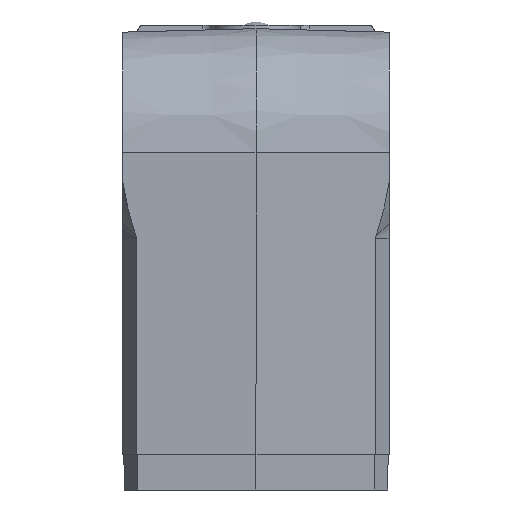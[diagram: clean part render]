
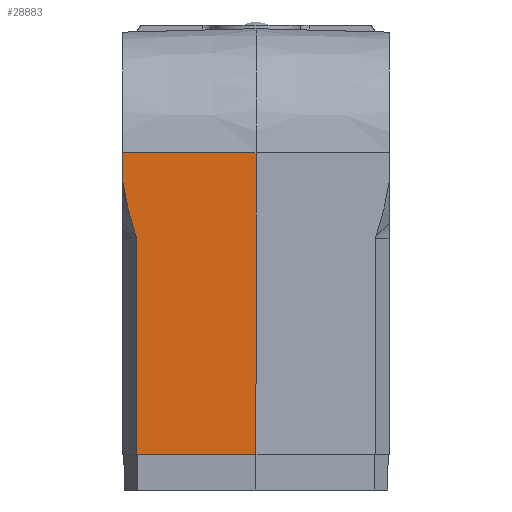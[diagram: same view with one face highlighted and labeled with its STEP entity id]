
A CAD part, left-side view. The second image highlights one B-rep face of the part: STEP entity #28883.
In plain terms, the highlighted planar face has unit normal (-1, 0.026, 0).
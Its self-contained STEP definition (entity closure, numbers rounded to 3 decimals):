
#8020=DIRECTION('',(-0.026,-1.,0.));
#8021=VECTOR('',#8020,0.051);
#8022=CARTESIAN_POINT('',(-17.824,6.736,0.));
#8023=LINE('',#8022,#8021);
#8069=DIRECTION('',(0.026,1.,0.));
#8070=VECTOR('',#8069,6.687);
#8071=CARTESIAN_POINT('',(-18.,0.,0.));
#8072=LINE('',#8071,#8070);
#8076=DIRECTION('',(0.,0.,1.));
#8077=VECTOR('',#8076,12.178);
#8078=CARTESIAN_POINT('',(-17.824,6.736,0.));
#8079=LINE('',#8078,#8077);
#8083=CARTESIAN_POINT('',(-17.824,6.736,12.178));
#8084=CARTESIAN_POINT('',(-17.824,6.736,12.186));
#8085=CARTESIAN_POINT('',(-17.824,6.736,12.202));
#8086=CARTESIAN_POINT('',(-17.824,6.739,12.226));
#8087=CARTESIAN_POINT('',(-17.823,6.744,12.25));
#8088=CARTESIAN_POINT('',(-17.823,6.75,12.274));
#8089=CARTESIAN_POINT('',(-17.823,6.755,12.291));
#8090=CARTESIAN_POINT('',(-17.823,6.758,12.3));
#8095=CARTESIAN_POINT('',(-17.823,6.758,12.3));
#8096=CARTESIAN_POINT('',(-17.822,6.787,12.387));
#8097=CARTESIAN_POINT('',(-17.821,6.845,12.564));
#8098=CARTESIAN_POINT('',(-17.818,6.933,12.848));
#8099=CARTESIAN_POINT('',(-17.816,7.017,13.131));
#8100=CARTESIAN_POINT('',(-17.814,7.093,13.401));
#8101=CARTESIAN_POINT('',(-17.813,7.158,13.647));
#8102=CARTESIAN_POINT('',(-17.811,7.216,13.879));
#8103=CARTESIAN_POINT('',(-17.81,7.27,14.107));
#8104=CARTESIAN_POINT('',(-17.808,7.322,14.339));
#8105=CARTESIAN_POINT('',(-17.807,7.373,14.588));
#8106=CARTESIAN_POINT('',(-17.806,7.421,14.845));
#8107=CARTESIAN_POINT('',(-17.805,7.464,15.104));
#8108=CARTESIAN_POINT('',(-17.804,7.489,15.271));
#8109=CARTESIAN_POINT('',(-17.804,7.5,15.354));
#8114=DIRECTION('',(-0.026,-1.,0.));
#8115=VECTOR('',#8114,7.503);
#8116=CARTESIAN_POINT('',(-17.804,7.5,17.));
#8117=LINE('',#8116,#8115);
#8121=DIRECTION('',(0.,0.,1.));
#8122=VECTOR('',#8121,17.);
#8123=CARTESIAN_POINT('',(-18.,0.,0.));
#8124=LINE('',#8123,#8122);
#8173=DIRECTION('',(0.,0.,-1.));
#8174=VECTOR('',#8173,1.646);
#8175=CARTESIAN_POINT('',(-17.804,7.5,17.));
#8176=LINE('',#8175,#8174);
#16236=CARTESIAN_POINT('',(-17.804,7.5,15.354));
#16237=VERTEX_POINT('',#16236);
#16258=CARTESIAN_POINT('',(-17.824,6.736,0.));
#16259=VERTEX_POINT('',#16258);
#16262=CARTESIAN_POINT('',(-17.824,6.736,
12.178));
#16263=VERTEX_POINT('',#16262);
#16264=CARTESIAN_POINT('',(-17.823,6.758,
12.3));
#16265=VERTEX_POINT('',#16264);
#16346=CARTESIAN_POINT('',(-17.804,7.5,17.));
#16348=VERTEX_POINT('',#16346);
#16362=CARTESIAN_POINT('',(-18.,0.,17.));
#16364=VERTEX_POINT('',#16362);
#17688=CARTESIAN_POINT('',(-18.,0.,0.));
#17690=VERTEX_POINT('',#17688);
#17691=CARTESIAN_POINT('',(-17.825,6.685,
0.));
#17692=VERTEX_POINT('',#17691);
#28862=CARTESIAN_POINT('',(-17.804,7.5,17.));
#28863=DIRECTION('',(1.,-0.026,0.));
#28864=DIRECTION('',(-0.026,-1.,0.));
#28865=AXIS2_PLACEMENT_3D('',#28862,#28863,#28864);
#28866=PLANE('',#28865);
#28867=ORIENTED_EDGE('',*,*,#28840,.T.);
#28868=ORIENTED_EDGE('',*,*,#28764,.F.);
#28870=ORIENTED_EDGE('',*,*,#28869,.T.);
#28872=ORIENTED_EDGE('',*,*,#28871,.T.);
#28874=ORIENTED_EDGE('',*,*,#28873,.T.);
#28876=ORIENTED_EDGE('',*,*,#28875,.F.);
#28878=ORIENTED_EDGE('',*,*,#28877,.T.);
#28880=ORIENTED_EDGE('',*,*,#28879,.F.);
#28881=EDGE_LOOP('',(#28867,#28868,#28870,#28872,#28874,#28876,#28878,#28880));
#28882=FACE_OUTER_BOUND('',#28881,.F.);
#8091=B_SPLINE_CURVE_WITH_KNOTS('',3,(#8083,#8084,#8085,#8086,#8087,#8088,#8089,
#8090),.UNSPECIFIED.,.F.,.F.,(4,1,1,1,1,4),(0.,0.2,0.4,0.6,0.8,1.),
.UNSPECIFIED.);
#8110=B_SPLINE_CURVE_WITH_KNOTS('',3,(#8095,#8096,#8097,#8098,#8099,#8100,#8101,
#8102,#8103,#8104,#8105,#8106,#8107,#8108,#8109),.UNSPECIFIED.,.F.,.F.,(4,1,1,1,
1,1,1,1,1,1,1,1,4),(0.,0.083,0.167,0.25,
0.333,0.417,0.5,0.583,0.667,
0.75,0.833,0.917,1.),.UNSPECIFIED.);
#28764=EDGE_CURVE('',#16259,#17692,#8023,.T.);
#28840=EDGE_CURVE('',#17690,#17692,#8072,.T.);
#28869=EDGE_CURVE('',#16259,#16263,#8079,.T.);
#28871=EDGE_CURVE('',#16263,#16265,#8091,.T.);
#28873=EDGE_CURVE('',#16265,#16237,#8110,.T.);
#28875=EDGE_CURVE('',#16348,#16237,#8176,.T.);
#28877=EDGE_CURVE('',#16348,#16364,#8117,.T.);
#28879=EDGE_CURVE('',#17690,#16364,#8124,.T.);
#28883=ADVANCED_FACE('',(#28882),#28866,.F.);
